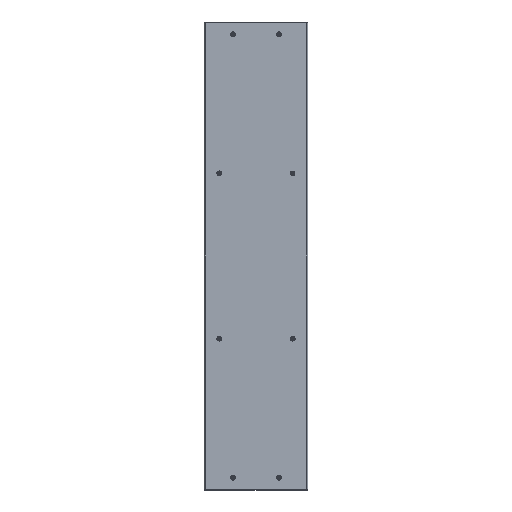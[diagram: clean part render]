
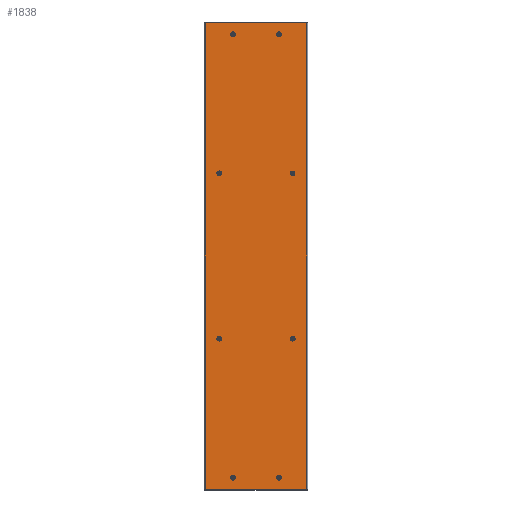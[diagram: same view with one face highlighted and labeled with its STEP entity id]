
A CAD part, left-side view. The second image highlights one B-rep face of the part: STEP entity #1838.
In plain terms, the highlighted planar face has unit normal (-1, 0, 0).
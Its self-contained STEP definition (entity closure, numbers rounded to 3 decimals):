
#1838=ADVANCED_FACE('',(#2386,#2388,#2390,#2392,#2394,#2396,#2398,#2400,#2402),#2404,
.F.);
#2386=FACE_BOUND('',#2387,.T.);
#2387=EDGE_LOOP('',(#6957,#6958,#6959,#6960));
#2388=FACE_BOUND('',#2389,.T.);
#2389=EDGE_LOOP('',(#6961));
#2390=FACE_BOUND('',#2391,.T.);
#2391=EDGE_LOOP('',(#6962));
#2392=FACE_BOUND('',#2393,.T.);
#2393=EDGE_LOOP('',(#6963));
#2394=FACE_BOUND('',#2395,.T.);
#2395=EDGE_LOOP('',(#6964));
#2396=FACE_BOUND('',#2397,.T.);
#2397=EDGE_LOOP('',(#6965));
#2398=FACE_BOUND('',#2399,.T.);
#2399=EDGE_LOOP('',(#6966));
#2400=FACE_BOUND('',#2401,.T.);
#2401=EDGE_LOOP('',(#6967));
#2402=FACE_BOUND('',#2403,.T.);
#2403=EDGE_LOOP('',(#6968));
#2404=PLANE('',#2405);
#2405=AXIS2_PLACEMENT_3D('',#2406,#2407,#2408);
#2406=CARTESIAN_POINT('',(0.,0.,0.));
#2407=DIRECTION('',(1.,0.,0.));
#2408=DIRECTION('',(0.,1.,0.));
#6957=ORIENTED_EDGE('',*,*,#8157,.T.);
#6958=ORIENTED_EDGE('',*,*,#8158,.T.);
#6959=ORIENTED_EDGE('',*,*,#8159,.T.);
#6960=ORIENTED_EDGE('',*,*,#8160,.T.);
#6961=ORIENTED_EDGE('',*,*,#8161,.T.);
#6962=ORIENTED_EDGE('',*,*,#8162,.T.);
#6963=ORIENTED_EDGE('',*,*,#8163,.T.);
#6964=ORIENTED_EDGE('',*,*,#8164,.T.);
#6965=ORIENTED_EDGE('',*,*,#8165,.T.);
#6966=ORIENTED_EDGE('',*,*,#8166,.T.);
#6967=ORIENTED_EDGE('',*,*,#8167,.T.);
#6968=ORIENTED_EDGE('',*,*,#8168,.T.);
#8157=EDGE_CURVE('',#8819,#8820,#8821,.T.);
#8158=EDGE_CURVE('',#8820,#8822,#8823,.T.);
#8159=EDGE_CURVE('',#8822,#8824,#8825,.T.);
#8160=EDGE_CURVE('',#8824,#8819,#8826,.T.);
#8161=EDGE_CURVE('',#8827,#8827,#8828,.T.);
#8162=EDGE_CURVE('',#8829,#8829,#8830,.T.);
#8163=EDGE_CURVE('',#8831,#8831,#8832,.T.);
#8164=EDGE_CURVE('',#8833,#8833,#8834,.T.);
#8165=EDGE_CURVE('',#8835,#8835,#8836,.T.);
#8166=EDGE_CURVE('',#8837,#8837,#8838,.T.);
#8167=EDGE_CURVE('',#8839,#8839,#8840,.T.);
#8168=EDGE_CURVE('',#8841,#8841,#8842,.T.);
#8819=VERTEX_POINT('',#10003);
#8820=VERTEX_POINT('',#10004);
#8821=LINE('',#10005,#10006);
#8822=VERTEX_POINT('',#10008);
#8823=LINE('',#10009,#10010);
#8824=VERTEX_POINT('',#10012);
#8825=LINE('',#10013,#10014);
#8826=LINE('',#10016,#10017);
#8827=VERTEX_POINT('',#10019);
#8828=CIRCLE('',#10020,9.25);
#8829=VERTEX_POINT('',#10024);
#8830=CIRCLE('',#10025,9.25);
#8831=VERTEX_POINT('',#10029);
#8832=CIRCLE('',#10030,9.25);
#8833=VERTEX_POINT('',#10034);
#8834=CIRCLE('',#10035,8.727);
#8835=VERTEX_POINT('',#10039);
#8836=CIRCLE('',#10040,9.25);
#8837=VERTEX_POINT('',#10044);
#8838=CIRCLE('',#10045,9.25);
#8839=VERTEX_POINT('',#10049);
#8840=CIRCLE('',#10050,9.25);
#8841=VERTEX_POINT('',#10054);
#8842=CIRCLE('',#10055,9.25);
#10003=CARTESIAN_POINT('',(0.,192.7,882.7));
#10004=CARTESIAN_POINT('',(0.,192.7,-882.7));
#10005=CARTESIAN_POINT('',(0.,192.7,882.7));
#10006=VECTOR('',#10007,1.);
#10007=DIRECTION('',(0.,0.,-1.));
#10008=CARTESIAN_POINT('',(0.,-192.7,-882.7));
#10009=CARTESIAN_POINT('',(0.,192.7,-882.7));
#10010=VECTOR('',#10011,1.);
#10011=DIRECTION('',(0.,-1.,0.));
#10012=CARTESIAN_POINT('',(0.,-192.7,882.7));
#10013=CARTESIAN_POINT('',(0.,-192.7,-882.7));
#10014=VECTOR('',#10015,1.);
#10015=DIRECTION('',(0.,0.,1.));
#10016=CARTESIAN_POINT('',(0.,-192.7,882.7));
#10017=VECTOR('',#10018,1.);
#10018=DIRECTION('',(0.,1.,0.));
#10019=CARTESIAN_POINT('',(0.,129.25,-312.5));
#10020=AXIS2_PLACEMENT_3D('',#10021,#10022,#10023);
#10021=CARTESIAN_POINT('',(0.,138.5,-312.5));
#10022=DIRECTION('',(1.,0.,0.));
#10023=DIRECTION('',(0.,-1.,0.));
#10024=CARTESIAN_POINT('',(0.,-147.75,-312.5));
#10025=AXIS2_PLACEMENT_3D('',#10026,#10027,#10028);
#10026=CARTESIAN_POINT('',(0.,-138.5,-312.5));
#10027=DIRECTION('',(1.,0.,0.));
#10028=DIRECTION('',(0.,-1.,0.));
#10029=CARTESIAN_POINT('',(0.,129.25,312.5));
#10030=AXIS2_PLACEMENT_3D('',#10031,#10032,#10033);
#10031=CARTESIAN_POINT('',(0.,138.5,312.5));
#10032=DIRECTION('',(1.,0.,0.));
#10033=DIRECTION('',(0.,-1.,0.));
#10034=CARTESIAN_POINT('',(0.,-147.227,312.5));
#10035=AXIS2_PLACEMENT_3D('',#10036,#10037,#10038);
#10036=CARTESIAN_POINT('',(0.,-138.5,312.5));
#10037=DIRECTION('',(1.,0.,0.));
#10038=DIRECTION('',(0.,-1.,0.));
#10039=CARTESIAN_POINT('',(0.,-78.25,839.));
#10040=AXIS2_PLACEMENT_3D('',#10041,#10042,#10043);
#10041=CARTESIAN_POINT('',(0.,-87.5,839.));
#10042=DIRECTION('',(1.,0.,0.));
#10043=DIRECTION('',(0.,1.,0.));
#10044=CARTESIAN_POINT('',(0.,96.75,839.));
#10045=AXIS2_PLACEMENT_3D('',#10046,#10047,#10048);
#10046=CARTESIAN_POINT('',(0.,87.5,839.));
#10047=DIRECTION('',(1.,0.,0.));
#10048=DIRECTION('',(0.,1.,0.));
#10049=CARTESIAN_POINT('',(0.,-78.25,-839.));
#10050=AXIS2_PLACEMENT_3D('',#10051,#10052,#10053);
#10051=CARTESIAN_POINT('',(0.,-87.5,-839.));
#10052=DIRECTION('',(1.,0.,0.));
#10053=DIRECTION('',(0.,1.,0.));
#10054=CARTESIAN_POINT('',(0.,96.75,-839.));
#10055=AXIS2_PLACEMENT_3D('',#10056,#10057,#10058);
#10056=CARTESIAN_POINT('',(0.,87.5,-839.));
#10057=DIRECTION('',(1.,0.,0.));
#10058=DIRECTION('',(0.,1.,0.));
